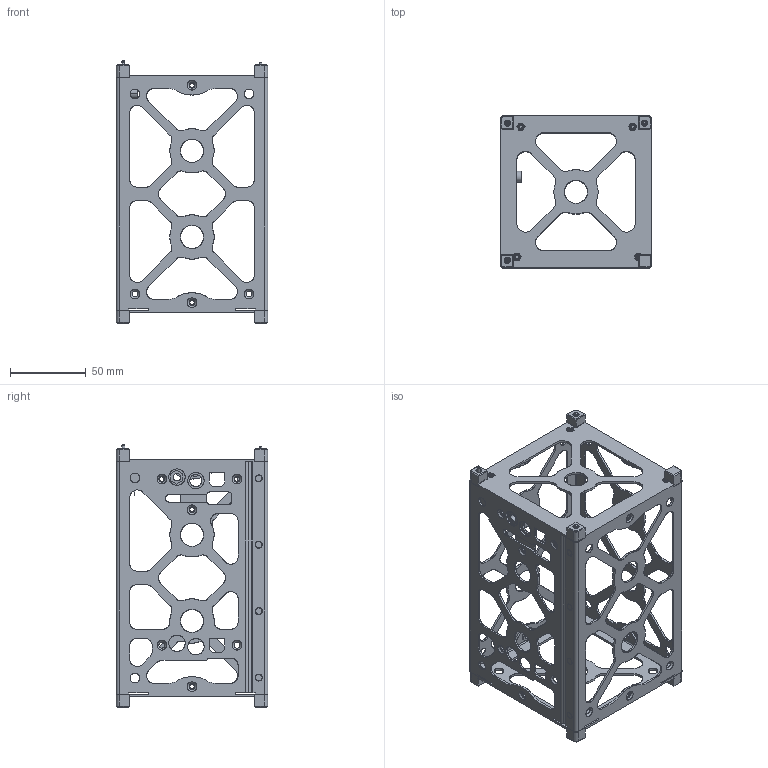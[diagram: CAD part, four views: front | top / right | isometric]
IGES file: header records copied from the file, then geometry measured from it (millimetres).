
Start section: SolidWorks IGES file using NURBS representation for surfaces
Global section: file name: E:\Client\CubeSat\STEP files\1.5U\CSK_1.5U_Chassis_Skeleton_RevD.IGS; native system: SolidWorks 2006 by SolidWorks Corporation; preprocessor: SolidWorks 2006 by SolidWorks Corporation; author: Adam Reif; date: 081008.001419; units: inch
Bounding box: 100 x 100 x 172.79 mm (x, y, z)
Surface area: 104768.9 mm2 (no closed solid volume)
Topology: 0 solids, 0 shells, 1820 faces, 22413 edges, 22407 vertices
Faces by surface type: bspline 1820
